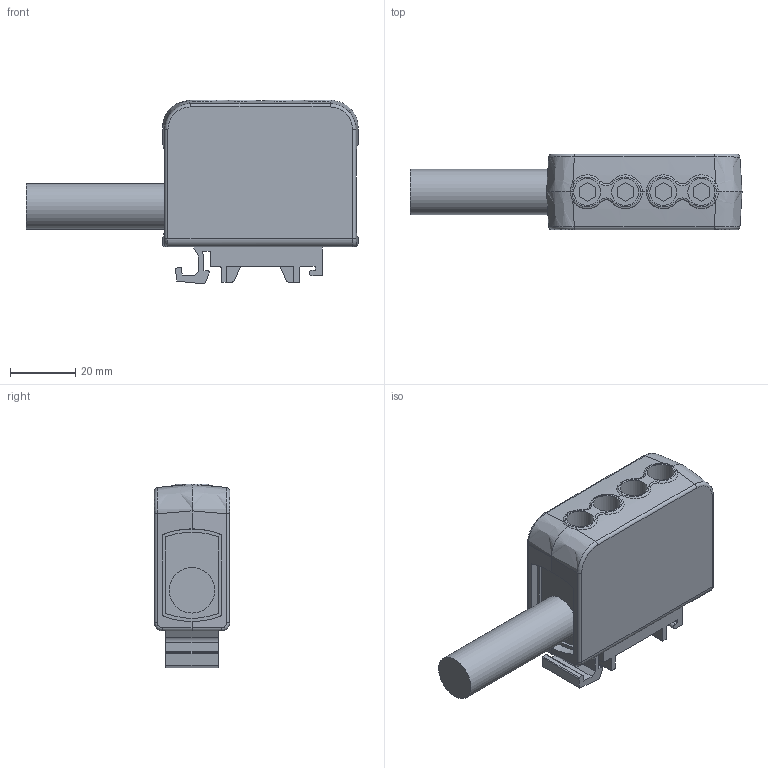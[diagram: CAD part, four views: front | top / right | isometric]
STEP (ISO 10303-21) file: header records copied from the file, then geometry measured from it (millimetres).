
FILE_DESCRIPTION(/* description */ ('Unknown'),/* implementation_level */ '2;1');
FILE_NAME(/* name */ 'UTB 70_2x35P',/* time_stamp */ '2024-01-18T09:22:46+01:00',/* author */ ('Unknown'),/* organization */ ('Unknown'),/* preprocessor_version */ 'ST-DEVELOPER v18.102',/* originating_system */ 'Solid Edge',/* authorisation */ 'Unknown');
FILE_SCHEMA (('AUTOMOTIVE_DESIGN {1 0 10303 214 3 1 1}'));
Length unit declared in the file: millimetre
Products named in the file (1): UTB 70_2x35P
Bounding box: 102.1 x 23.2 x 56.55 mm (x, y, z)
Volume: 65517.8 mm3; surface area: 15485.7 mm2
Topology: 1 solids, 1 shells, 164 faces, 419 edges, 271 vertices
Faces by surface type: plane 92, cylinder 40, bspline 28, torus 4
Full cylindrical faces by diameter (mm): 8.3 x4, 10 x2, 14 x1
Entity records: 5359 total; most frequent: CARTESIAN_POINT 1523, ORIENTED_EDGE 818, DIRECTION 736, EDGE_CURVE 409, VERTEX_POINT 268, LINE 248, VECTOR 248, AXIS2_PLACEMENT_3D 244
